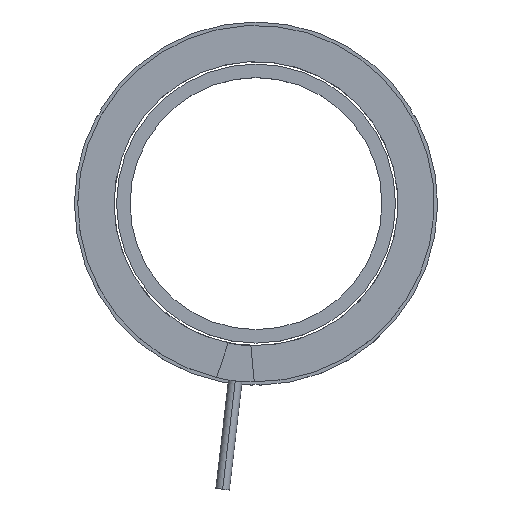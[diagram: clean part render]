
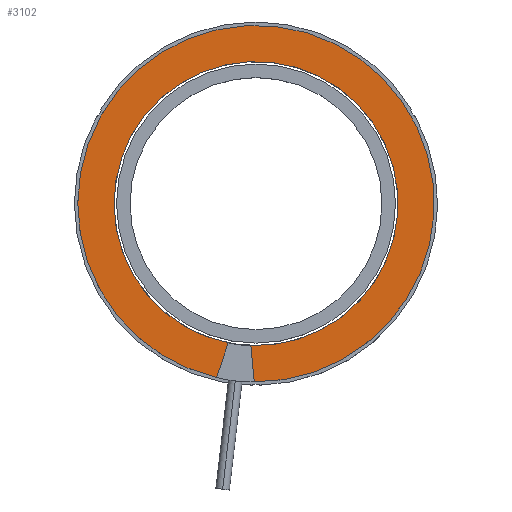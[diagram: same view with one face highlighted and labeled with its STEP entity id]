
A CAD part, top view. The second image highlights one B-rep face of the part: STEP entity #3102.
In plain terms, the highlighted planar face has unit normal (0, 0, 1).
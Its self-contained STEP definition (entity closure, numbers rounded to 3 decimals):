
#118 = CARTESIAN_POINT ( 'NONE',  ( 57.345, 21.23, 202.898 ) ) ;
#177 = ORIENTED_EDGE ( 'NONE', *, *, #4557, .F. ) ;
#353 = CIRCLE ( 'NONE', #1656, 62.55 ) ;
#375 = CARTESIAN_POINT ( 'NONE',  ( 58.141, 99.726, 202.898 ) ) ;
#625 = ORIENTED_EDGE ( 'NONE', *, *, #4932, .F. ) ;
#657 = LINE ( 'NONE', #1867, #2031 ) ;
#672 = DIRECTION ( 'NONE',  ( -0.116, -0.993, 0. ) ) ;
#692 = CARTESIAN_POINT ( 'NONE',  ( 58.141, 99.726, 202.898 ) ) ;
#698 = CARTESIAN_POINT ( 'NONE',  ( 58.141, 99.726, 202.898 ) ) ;
#706 = DIRECTION ( 'NONE',  ( -0.32, -0.947, 0. ) ) ;
#760 = DIRECTION ( 'NONE',  ( 0., 0., 1. ) ) ;
#786 = AXIS2_PLACEMENT_3D ( 'NONE', #692, #4299, #2694 ) ;
#850 = EDGE_CURVE ( 'NONE', #2888, #1680, #353, .T. ) ;
#1041 = VECTOR ( 'NONE', #4007, 1000. ) ;
#1047 = CARTESIAN_POINT ( 'NONE',  ( 67.271, 177.694, 202.898 ) ) ;
#1054 = CARTESIAN_POINT ( 'NONE',  ( 58.141, 99.726, 202.898 ) ) ;
#1221 = CARTESIAN_POINT ( 'NONE',  ( 55.856, 37.218, 202.898 ) ) ;
#1264 = CARTESIAN_POINT ( 'NONE',  ( 40.781, 23.17, 202.898 ) ) ;
#1492 = VERTEX_POINT ( 'NONE', #1264 ) ;
#1656 = AXIS2_PLACEMENT_3D ( 'NONE', #1054, #3766, #2932 ) ;
#1680 = VERTEX_POINT ( 'NONE', #2946 ) ;
#1734 = VERTEX_POINT ( 'NONE', #118 ) ;
#1867 = CARTESIAN_POINT ( 'NONE',  ( 45.923, 38.381, 202.898 ) ) ;
#2031 = VECTOR ( 'NONE', #706, 1000. ) ;
#2334 = CARTESIAN_POINT ( 'NONE',  ( 58.141, 99.726, 202.898 ) ) ;
#2491 = VERTEX_POINT ( 'NONE', #1047 ) ;
#2638 = CIRCLE ( 'NONE', #3306, 78.5 ) ;
#2694 = DIRECTION ( 'NONE',  ( -0.116, -0.993, 0. ) ) ;
#2729 = DIRECTION ( 'NONE',  ( 0., 0., 1. ) ) ;
#2771 = ORIENTED_EDGE ( 'NONE', *, *, #850, .F. ) ;
#2784 = CIRCLE ( 'NONE', #4202, 62.55 ) ;
#2867 = EDGE_LOOP ( 'NONE', ( #625, #4866, #3622, #177, #2771, #3586 ) ) ;
#2888 = VERTEX_POINT ( 'NONE', #4162 ) ;
#2932 = DIRECTION ( 'NONE',  ( -0.116, -0.993, 0. ) ) ;
#2946 = CARTESIAN_POINT ( 'NONE',  ( 45.923, 38.381, 202.898 ) ) ;
#2954 = CIRCLE ( 'NONE', #786, 78.5 ) ;
#3102 = ADVANCED_FACE ( 'NONE', ( #4313 ), #4385, .T. ) ;
#3239 = VERTEX_POINT ( 'NONE', #4490 ) ;
#3306 = AXIS2_PLACEMENT_3D ( 'NONE', #2334, #2729, #3920 ) ;
#3586 = ORIENTED_EDGE ( 'NONE', *, *, #4834, .F. ) ;
#3622 = ORIENTED_EDGE ( 'NONE', *, *, #3895, .T. ) ;
#3766 = DIRECTION ( 'NONE',  ( 0., 0., 1. ) ) ;
#3846 = AXIS2_PLACEMENT_3D ( 'NONE', #375, #760, #5067 ) ;
#3895 = EDGE_CURVE ( 'NONE', #2491, #1492, #2638, .T. ) ;
#3920 = DIRECTION ( 'NONE',  ( -0.116, -0.993, 0. ) ) ;
#3966 = LINE ( 'NONE', #1221, #1041 ) ;
#4007 = DIRECTION ( 'NONE',  ( -0.093, 0.996, 0. ) ) ;
#4162 = CARTESIAN_POINT ( 'NONE',  ( 65.416, 161.852, 202.898 ) ) ;
#4202 = AXIS2_PLACEMENT_3D ( 'NONE', #698, #5106, #672 ) ;
#4269 = EDGE_CURVE ( 'NONE', #1734, #2491, #2954, .T. ) ;
#4299 = DIRECTION ( 'NONE',  ( 0., 0., 1. ) ) ;
#4313 = FACE_OUTER_BOUND ( 'NONE', #2867, .T. ) ;
#4385 = PLANE ( 'NONE',  #3846 ) ;
#4490 = CARTESIAN_POINT ( 'NONE',  ( 55.856, 37.218, 202.898 ) ) ;
#4557 = EDGE_CURVE ( 'NONE', #1680, #1492, #657, .T. ) ;
#4834 = EDGE_CURVE ( 'NONE', #3239, #2888, #2784, .T. ) ;
#4866 = ORIENTED_EDGE ( 'NONE', *, *, #4269, .T. ) ;
#4932 = EDGE_CURVE ( 'NONE', #1734, #3239, #3966, .T. ) ;
#5067 = DIRECTION ( 'NONE',  ( 0.993, -0.116, 0. ) ) ;
#5106 = DIRECTION ( 'NONE',  ( 0., 0., 1. ) ) ;
